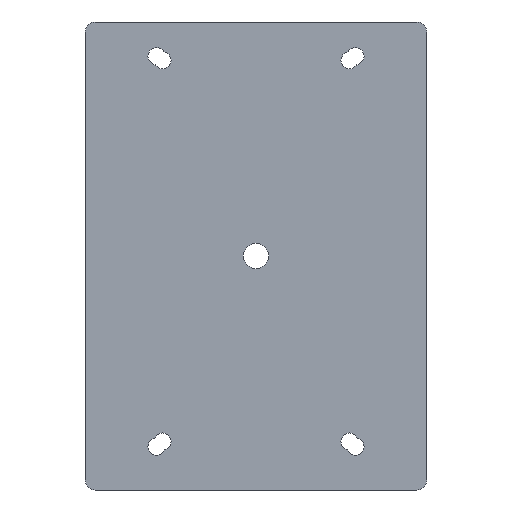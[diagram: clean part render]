
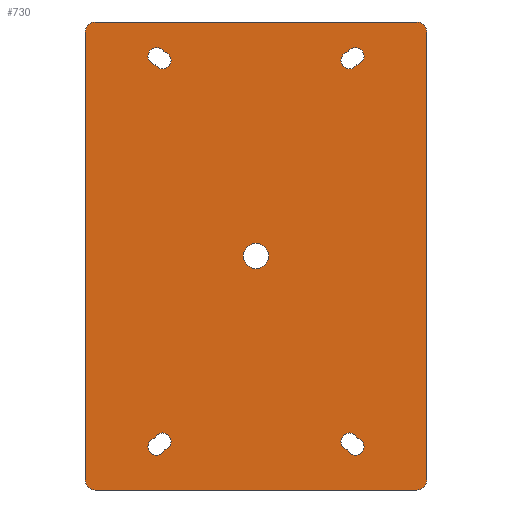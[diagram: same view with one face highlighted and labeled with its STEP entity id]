
A CAD part, front view. The second image highlights one B-rep face of the part: STEP entity #730.
In plain terms, the highlighted planar face has unit normal (0, -1, 0).
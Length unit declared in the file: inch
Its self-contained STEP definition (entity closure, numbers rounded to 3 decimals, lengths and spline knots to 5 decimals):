
#48=CARTESIAN_POINT('',(-1.59,-0.375,-2.215));
#49=DIRECTION('',(0.,-1.,0.));
#50=DIRECTION('',(-1.,0.,0.));
#51=AXIS2_PLACEMENT_3D('',#48,#49,#50);
#53=DIRECTION('',(0.,0.,1.));
#54=VECTOR('',#53,4.43);
#55=CARTESIAN_POINT('',(-1.69,-0.375,-2.215));
#56=LINE('',#55,#54);
#57=CARTESIAN_POINT('',(-1.59,-0.375,2.215));
#58=DIRECTION('',(0.,-1.,0.));
#59=DIRECTION('',(0.,0.,1.));
#60=AXIS2_PLACEMENT_3D('',#57,#58,#59);
#62=DIRECTION('',(1.,0.,0.));
#63=VECTOR('',#62,3.18);
#64=CARTESIAN_POINT('',(-1.59,-0.375,2.315));
#65=LINE('',#64,#63);
#66=CARTESIAN_POINT('',(1.59,-0.375,2.215));
#67=DIRECTION('',(0.,-1.,0.));
#68=DIRECTION('',(1.,0.,0.));
#69=AXIS2_PLACEMENT_3D('',#66,#67,#68);
#71=DIRECTION('',(0.,0.,-1.));
#72=VECTOR('',#71,4.43);
#73=CARTESIAN_POINT('',(1.69,-0.375,2.215));
#74=LINE('',#73,#72);
#75=CARTESIAN_POINT('',(1.59,-0.375,-2.215));
#76=DIRECTION('',(0.,-1.,0.));
#77=DIRECTION('',(0.,0.,-1.));
#78=AXIS2_PLACEMENT_3D('',#75,#76,#77);
#80=DIRECTION('',(-1.,0.,0.));
#81=VECTOR('',#80,3.18);
#82=CARTESIAN_POINT('',(1.59,-0.375,-2.315));
#83=LINE('',#82,#81);
#84=CARTESIAN_POINT('',(0.,-0.375,0.));
#85=DIRECTION('',(0.,1.,0.));
#86=DIRECTION('',(-1.,0.,0.));
#87=AXIS2_PLACEMENT_3D('',#84,#85,#86);
#89=CARTESIAN_POINT('',(0.,-0.375,0.));
#90=DIRECTION('',(0.,1.,0.));
#91=DIRECTION('',(1.,0.,0.));
#92=AXIS2_PLACEMENT_3D('',#89,#90,#91);
#238=CARTESIAN_POINT('',(-0.984,-0.375,-1.886));
#239=DIRECTION('',(0.,1.,0.));
#240=DIRECTION('',(0.929,0.,-0.369));
#241=AXIS2_PLACEMENT_3D('',#238,#239,#240);
#251=CARTESIAN_POINT('',(-0.925,-0.375,-1.835));
#252=DIRECTION('',(0.,1.,0.));
#253=DIRECTION('',(-0.929,0.,0.369));
#254=AXIS2_PLACEMENT_3D('',#251,#252,#253);
#300=CARTESIAN_POINT('',(0.984,-0.375,-1.886));
#301=DIRECTION('',(0.,1.,0.));
#302=DIRECTION('',(0.231,0.,0.973));
#303=AXIS2_PLACEMENT_3D('',#300,#301,#302);
#353=CARTESIAN_POINT('',(0.925,-0.375,-1.835));
#354=DIRECTION('',(0.,1.,0.));
#355=DIRECTION('',(-0.231,0.,-0.973));
#356=AXIS2_PLACEMENT_3D('',#353,#354,#355);
#362=CARTESIAN_POINT('',(-0.984,-0.375,1.976));
#363=DIRECTION('',(0.,1.,0.));
#364=DIRECTION('',(-0.167,0.,-0.986));
#365=AXIS2_PLACEMENT_3D('',#362,#363,#364);
#375=CARTESIAN_POINT('',(-0.925,-0.375,1.935));
#376=DIRECTION('',(0.,1.,0.));
#377=DIRECTION('',(0.167,0.,0.986));
#378=AXIS2_PLACEMENT_3D('',#375,#376,#377);
#427=CARTESIAN_POINT('',(0.984,-0.375,1.976));
#428=DIRECTION('',(0.,1.,0.));
#429=DIRECTION('',(-0.866,0.,0.501));
#430=AXIS2_PLACEMENT_3D('',#427,#428,#429);
#480=CARTESIAN_POINT('',(0.925,-0.375,1.935));
#481=DIRECTION('',(0.,1.,0.));
#482=DIRECTION('',(0.866,0.,-0.501));
#483=AXIS2_PLACEMENT_3D('',#480,#481,#482);
#497=CARTESIAN_POINT('',(-1.69,-0.375,-2.215));
#498=CARTESIAN_POINT('',(-1.59,-0.375,-2.315));
#499=VERTEX_POINT('',#497);
#500=VERTEX_POINT('',#498);
#505=CARTESIAN_POINT('',(-1.59,-0.375,2.315));
#506=CARTESIAN_POINT('',(-1.69,-0.375,2.215));
#507=VERTEX_POINT('',#505);
#508=VERTEX_POINT('',#506);
#513=CARTESIAN_POINT('',(1.69,-0.375,2.215));
#514=CARTESIAN_POINT('',(1.59,-0.375,2.315));
#515=VERTEX_POINT('',#513);
#516=VERTEX_POINT('',#514);
#521=CARTESIAN_POINT('',(1.59,-0.375,-2.315));
#522=CARTESIAN_POINT('',(1.69,-0.375,-2.215));
#523=VERTEX_POINT('',#521);
#524=VERTEX_POINT('',#522);
#565=CARTESIAN_POINT('',(-0.125,-0.375,0.));
#566=CARTESIAN_POINT('',(0.125,-0.375,0.));
#567=VERTEX_POINT('',#565);
#568=VERTEX_POINT('',#566);
#573=CARTESIAN_POINT('',(-0.90548,-0.375,-1.91721));
#574=VERTEX_POINT('',#573);
#575=CARTESIAN_POINT('',(-1.00352,-0.375,-1.80379));
#576=VERTEX_POINT('',#575);
#583=CARTESIAN_POINT('',(0.90548,-0.375,-1.91721));
#584=VERTEX_POINT('',#583);
#585=CARTESIAN_POINT('',(1.00352,-0.375,-1.80379));
#586=VERTEX_POINT('',#585);
#593=CARTESIAN_POINT('',(-0.99815,-0.375,1.89269));
#594=VERTEX_POINT('',#593);
#595=CARTESIAN_POINT('',(-0.91085,-0.375,2.01831));
#596=VERTEX_POINT('',#595);
#603=CARTESIAN_POINT('',(0.99815,-0.375,1.89269));
#604=VERTEX_POINT('',#603);
#605=CARTESIAN_POINT('',(0.91085,-0.375,2.01831));
#606=VERTEX_POINT('',#605);
#678=CARTESIAN_POINT('',(0.,-0.375,0.));
#679=DIRECTION('',(0.,1.,0.));
#680=DIRECTION('',(1.,0.,0.));
#681=AXIS2_PLACEMENT_3D('',#678,#679,#680);
#682=PLANE('',#681);
#683=ORIENTED_EDGE('',*,*,#668,.F.);
#685=ORIENTED_EDGE('',*,*,#684,.T.);
#687=ORIENTED_EDGE('',*,*,#686,.F.);
#689=ORIENTED_EDGE('',*,*,#688,.T.);
#691=ORIENTED_EDGE('',*,*,#690,.F.);
#693=ORIENTED_EDGE('',*,*,#692,.T.);
#695=ORIENTED_EDGE('',*,*,#694,.F.);
#697=ORIENTED_EDGE('',*,*,#696,.T.);
#698=EDGE_LOOP('',(#683,#685,#687,#689,#691,#693,#695,#697));
#699=FACE_OUTER_BOUND('',#698,.F.);
#701=ORIENTED_EDGE('',*,*,#700,.F.);
#703=ORIENTED_EDGE('',*,*,#702,.F.);
#704=EDGE_LOOP('',(#701,#703));
#705=FACE_BOUND('',#704,.F.);
#707=ORIENTED_EDGE('',*,*,#706,.F.);
#709=ORIENTED_EDGE('',*,*,#708,.F.);
#710=EDGE_LOOP('',(#707,#709));
#711=FACE_BOUND('',#710,.F.);
#713=ORIENTED_EDGE('',*,*,#712,.F.);
#715=ORIENTED_EDGE('',*,*,#714,.F.);
#716=EDGE_LOOP('',(#713,#715));
#717=FACE_BOUND('',#716,.F.);
#719=ORIENTED_EDGE('',*,*,#718,.F.);
#721=ORIENTED_EDGE('',*,*,#720,.F.);
#722=EDGE_LOOP('',(#719,#721));
#723=FACE_BOUND('',#722,.F.);
#725=ORIENTED_EDGE('',*,*,#724,.F.);
#727=ORIENTED_EDGE('',*,*,#726,.F.);
#728=EDGE_LOOP('',(#725,#727));
#729=FACE_BOUND('',#728,.F.);
#730=ADVANCED_FACE('',(#699,#705,#711,#717,#723,#729),#682,.F.);
#52=CIRCLE('',#51,0.1);
#61=CIRCLE('',#60,0.1);
#70=CIRCLE('',#69,0.1);
#79=CIRCLE('',#78,0.1);
#88=CIRCLE('',#87,0.125);
#93=CIRCLE('',#92,0.125);
#242=CIRCLE('',#241,0.0845);
#255=CIRCLE('',#254,0.0845);
#304=CIRCLE('',#303,0.0845);
#357=CIRCLE('',#356,0.0845);
#366=CIRCLE('',#365,0.0845);
#379=CIRCLE('',#378,0.0845);
#431=CIRCLE('',#430,0.0845);
#484=CIRCLE('',#483,0.0845);
#668=EDGE_CURVE('',#499,#500,#52,.T.);
#684=EDGE_CURVE('',#499,#508,#56,.T.);
#686=EDGE_CURVE('',#507,#508,#61,.T.);
#688=EDGE_CURVE('',#507,#516,#65,.T.);
#690=EDGE_CURVE('',#515,#516,#70,.T.);
#692=EDGE_CURVE('',#515,#524,#74,.T.);
#694=EDGE_CURVE('',#523,#524,#79,.T.);
#696=EDGE_CURVE('',#523,#500,#83,.T.);
#700=EDGE_CURVE('',#574,#576,#242,.T.);
#702=EDGE_CURVE('',#576,#574,#255,.T.);
#706=EDGE_CURVE('',#586,#584,#304,.T.);
#708=EDGE_CURVE('',#584,#586,#357,.T.);
#712=EDGE_CURVE('',#594,#596,#366,.T.);
#714=EDGE_CURVE('',#596,#594,#379,.T.);
#718=EDGE_CURVE('',#606,#604,#431,.T.);
#720=EDGE_CURVE('',#604,#606,#484,.T.);
#724=EDGE_CURVE('',#567,#568,#88,.T.);
#726=EDGE_CURVE('',#568,#567,#93,.T.);
